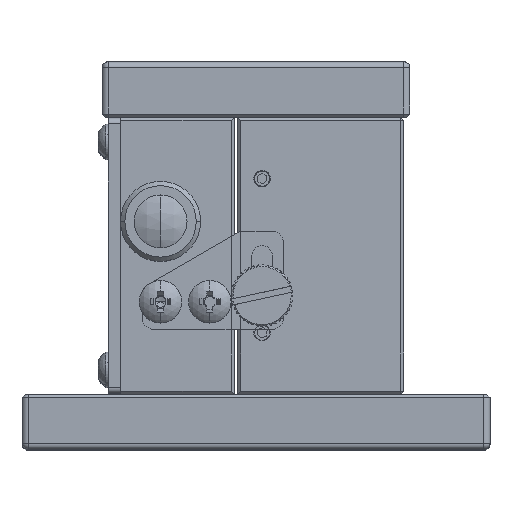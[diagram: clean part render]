
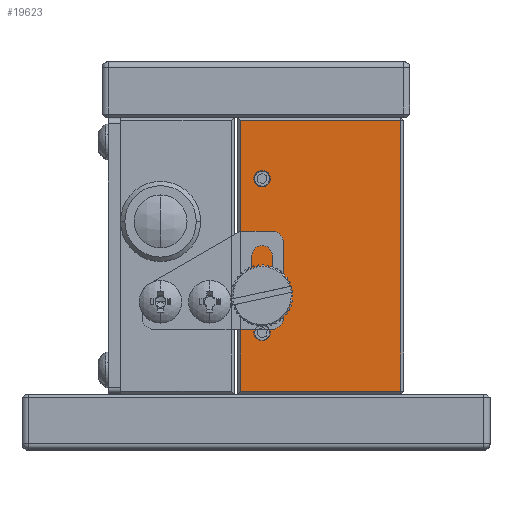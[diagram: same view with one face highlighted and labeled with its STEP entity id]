
A CAD part, top view. The second image highlights one B-rep face of the part: STEP entity #19623.
In plain terms, the highlighted planar face has unit normal (0, 0, 1).
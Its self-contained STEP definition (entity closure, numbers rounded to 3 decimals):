
#7961 = DIRECTION ( 'NONE',  ( 1., 0., 0. ) ) ;
#7963 = DIRECTION ( 'NONE',  ( 0., 0., 1. ) ) ;
#7964 = CARTESIAN_POINT ( 'NONE',  ( 17.058, 13.765, 9.803 ) ) ;
#7965 = AXIS2_PLACEMENT_3D ( 'NONE', #7964, #7963, #7961 ) ;
#7967 = CIRCLE ( 'NONE', #7965, 1.25 ) ;
#7999 = DIRECTION ( 'NONE',  ( 1., 0., 0. ) ) ;
#8001 = DIRECTION ( 'NONE',  ( 0., 0., 1. ) ) ;
#8003 = CARTESIAN_POINT ( 'NONE',  ( 17.058, 13.765, 9.803 ) ) ;
#8005 = AXIS2_PLACEMENT_3D ( 'NONE', #8003, #8001, #7999 ) ;
#8006 = CIRCLE ( 'NONE', #8005, 1.25 ) ;
#8012 = DIRECTION ( 'NONE',  ( 0., 1., 0. ) ) ;
#8014 = VECTOR ( 'NONE', #8012, 1000. ) ;
#8015 = CARTESIAN_POINT ( 'NONE',  ( 39.558, -2.235, 9.803 ) ) ;
#8016 = LINE ( 'NONE', #8015, #8014 ) ;
#8463 = LINE ( 'NONE', #8573, #8572 ) ;
#8571 = DIRECTION ( 'NONE',  ( 0., -1., 0. ) ) ;
#8572 = VECTOR ( 'NONE', #8571, 1000. ) ;
#8573 = CARTESIAN_POINT ( 'NONE',  ( 13.558, -2.235, 9.803 ) ) ;
#8923 = CARTESIAN_POINT ( 'NONE',  ( 15.808, 13.765, 9.803 ) ) ;
#8924 = CARTESIAN_POINT ( 'NONE',  ( 18.308, 13.765, 9.803 ) ) ;
#19431 = EDGE_CURVE ( 'NONE', #19632, #19629, #34365, .T. ) ;
#19615 = VERTEX_POINT ( 'NONE', #34577 ) ;
#19622 = EDGE_CURVE ( 'NONE', #19808, #19801, #34701, .T. ) ;
#19623 = ADVANCED_FACE ( 'NONE', ( #34595, #34594, #34593, #34592 ), #34591, .T. ) ;
#19624 = EDGE_LOOP ( 'NONE', ( #19625, #21076, #21057, #21245 ) ) ;
#19625 = ORIENTED_EDGE ( 'NONE', *, *, #19626, .T. ) ;
#19626 = EDGE_CURVE ( 'NONE', #19627, #19628, #34655, .T. ) ;
#19627 = VERTEX_POINT ( 'NONE', #34639 ) ;
#19628 = VERTEX_POINT ( 'NONE', #34630 ) ;
#19629 = VERTEX_POINT ( 'NONE', #34629 ) ;
#19631 = EDGE_CURVE ( 'NONE', #19629, #19632, #34569, .T. ) ;
#19632 = VERTEX_POINT ( 'NONE', #34746 ) ;
#19647 = EDGE_CURVE ( 'NONE', #19812, #19615, #34755, .T. ) ;
#19801 = VERTEX_POINT ( 'NONE', #34874 ) ;
#19808 = VERTEX_POINT ( 'NONE', #35079 ) ;
#19811 = EDGE_CURVE ( 'NONE', #19615, #19812, #35164, .T. ) ;
#19812 = VERTEX_POINT ( 'NONE', #35156 ) ;
#21057 = ORIENTED_EDGE ( 'NONE', *, *, #19622, .T. ) ;
#21058 = EDGE_CURVE ( 'NONE', #19801, #19627, #8016, .T. ) ;
#21059 = EDGE_CURVE ( 'NONE', #21247, #21248, #8006, .T. ) ;
#21069 = EDGE_LOOP ( 'NONE', ( #21073, #21071 ) ) ;
#21070 = EDGE_CURVE ( 'NONE', #21248, #21247, #7967, .T. ) ;
#21071 = ORIENTED_EDGE ( 'NONE', *, *, #19811, .F. ) ;
#21072 = ORIENTED_EDGE ( 'NONE', *, *, #21070, .F. ) ;
#21073 = ORIENTED_EDGE ( 'NONE', *, *, #19647, .F. ) ;
#21074 = ORIENTED_EDGE ( 'NONE', *, *, #21059, .F. ) ;
#21075 = EDGE_LOOP ( 'NONE', ( #21246, #21244 ) ) ;
#21076 = ORIENTED_EDGE ( 'NONE', *, *, #21175, .T. ) ;
#21171 = EDGE_LOOP ( 'NONE', ( #21074, #21072 ) ) ;
#21175 = EDGE_CURVE ( 'NONE', #19628, #19808, #8463, .T. ) ;
#21244 = ORIENTED_EDGE ( 'NONE', *, *, #19631, .F. ) ;
#21245 = ORIENTED_EDGE ( 'NONE', *, *, #21058, .T. ) ;
#21246 = ORIENTED_EDGE ( 'NONE', *, *, #19431, .F. ) ;
#21247 = VERTEX_POINT ( 'NONE', #8924 ) ;
#21248 = VERTEX_POINT ( 'NONE', #8923 ) ;
#34361 = DIRECTION ( 'NONE',  ( 1., 0., 0. ) ) ;
#34362 = DIRECTION ( 'NONE',  ( 0., 0., 1. ) ) ;
#34363 = CARTESIAN_POINT ( 'NONE',  ( 17.058, 32.765, 9.803 ) ) ;
#34364 = AXIS2_PLACEMENT_3D ( 'NONE', #34363, #34362, #34361 ) ;
#34365 = CIRCLE ( 'NONE', #34364, 1.25 ) ;
#34568 = CARTESIAN_POINT ( 'NONE',  ( 17.058, 32.765, 9.803 ) ) ;
#34569 = CIRCLE ( 'NONE', #34749, 1.25 ) ;
#34577 = CARTESIAN_POINT ( 'NONE',  ( 15.808, 7.765, 9.803 ) ) ;
#34580 = CARTESIAN_POINT ( 'NONE',  ( 13.058, 42.265, 9.803 ) ) ;
#34591 = PLANE ( 'NONE',  #34654 ) ;
#34592 = FACE_BOUND ( 'NONE', #21075, .T. ) ;
#34593 = FACE_BOUND ( 'NONE', #21069, .T. ) ;
#34594 = FACE_BOUND ( 'NONE', #21171, .T. ) ;
#34595 = FACE_OUTER_BOUND ( 'NONE', #19624, .T. ) ;
#34629 = CARTESIAN_POINT ( 'NONE',  ( 15.808, 32.765, 9.803 ) ) ;
#34630 = CARTESIAN_POINT ( 'NONE',  ( 13.558, 42.265, 9.803 ) ) ;
#34635 = DIRECTION ( 'NONE',  ( 1., 0., 0. ) ) ;
#34636 = DIRECTION ( 'NONE',  ( 0., 0., 1. ) ) ;
#34637 = CARTESIAN_POINT ( 'NONE',  ( 17.058, 7.765, 9.803 ) ) ;
#34638 = AXIS2_PLACEMENT_3D ( 'NONE', #34637, #34636, #34635 ) ;
#34639 = CARTESIAN_POINT ( 'NONE',  ( 39.558, 42.265, 9.803 ) ) ;
#34640 = DIRECTION ( 'NONE',  ( -1., 0., 0. ) ) ;
#34641 = VECTOR ( 'NONE', #34640, 1000. ) ;
#34653 = CARTESIAN_POINT ( 'NONE',  ( 13.058, -2.235, 9.803 ) ) ;
#34654 = AXIS2_PLACEMENT_3D ( 'NONE', #34653, #34703, #34702 ) ;
#34655 = LINE ( 'NONE', #34580, #34641 ) ;
#34698 = DIRECTION ( 'NONE',  ( 1., 0., 0. ) ) ;
#34699 = VECTOR ( 'NONE', #34698, 1000. ) ;
#34700 = CARTESIAN_POINT ( 'NONE',  ( 40.058, -1.735, 9.803 ) ) ;
#34701 = LINE ( 'NONE', #34700, #34699 ) ;
#34702 = DIRECTION ( 'NONE',  ( 1., 0., 0. ) ) ;
#34703 = DIRECTION ( 'NONE',  ( 0., 0., 1. ) ) ;
#34746 = CARTESIAN_POINT ( 'NONE',  ( 18.308, 32.765, 9.803 ) ) ;
#34747 = DIRECTION ( 'NONE',  ( 1., 0., 0. ) ) ;
#34748 = DIRECTION ( 'NONE',  ( 0., 0., 1. ) ) ;
#34749 = AXIS2_PLACEMENT_3D ( 'NONE', #34568, #34748, #34747 ) ;
#34755 = CIRCLE ( 'NONE', #34638, 1.25 ) ;
#34874 = CARTESIAN_POINT ( 'NONE',  ( 39.558, -1.735, 9.803 ) ) ;
#35079 = CARTESIAN_POINT ( 'NONE',  ( 13.558, -1.735, 9.803 ) ) ;
#35156 = CARTESIAN_POINT ( 'NONE',  ( 18.308, 7.765, 9.803 ) ) ;
#35157 = DIRECTION ( 'NONE',  ( 1., 0., 0. ) ) ;
#35158 = DIRECTION ( 'NONE',  ( 0., 0., 1. ) ) ;
#35159 = CARTESIAN_POINT ( 'NONE',  ( 17.058, 7.765, 9.803 ) ) ;
#35160 = AXIS2_PLACEMENT_3D ( 'NONE', #35159, #35158, #35157 ) ;
#35164 = CIRCLE ( 'NONE', #35160, 1.25 ) ;
